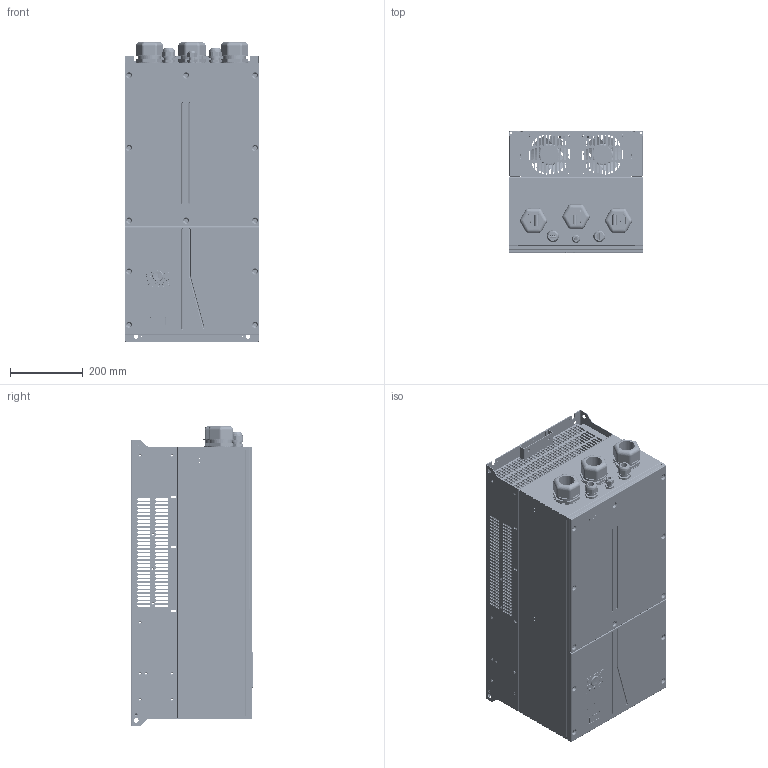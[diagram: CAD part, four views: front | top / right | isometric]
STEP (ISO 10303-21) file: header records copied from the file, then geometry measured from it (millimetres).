
FILE_DESCRIPTION((''),'2;1');
FILE_NAME('GD350-110G-45-NS_ASM_2_ASM_1_ASM','2025-07-31T15:10:04',('Administrator'),(''),'CREO PARAMETRIC BY PTC INC, 2019080','CREO PARAMETRIC BY PTC INC, 2019080','');
FILE_SCHEMA(('CONFIG_CONTROL_DESIGN'));
Products named in the file (70): 80310596_1_1; YMD-55-0D8-SL_1_1; 80310596_ASM_1_ASM_1_ASM; 80482931_1_1; S-M4-ZC_1_1; 80482931_ASM_1_ASM_1_ASM; 80482935_1_1; 80482935_ASM_1_ASM_1_ASM; 61210512_ASM_1_ASM_1_ASM; 80482936_1_1; NZ-M8-SL_1_1; 80482936_ASM_1_ASM_1_ASM; 80482936SY_1_1; 80482936SY_ASM_1_ASM_1_ASM; 41060148_ASM_1_ASM_1_ASM; 80340240_1_1; 80340240_ASM_1_ASM_1_ASM; 61061547_ASM_1_ASM_1_ASM; 80410471_1_1; FH-M3-10-ZC_1_1; BS-M4-10_1_1; 80410471_ASM_1_ASM_1_ASM; 61761386_ASM_1_ASM_1_ASM; 61761386SY_ASM_1_ASM_1_ASM; 80410718_1_1; 80410718_ASM_1_ASM_1_ASM; 80386379_1_1; 61761915_ASM_1_ASM_1_ASM; 41060189_ASM_1_ASM_1_ASM; 80483081_1_1; 80483081_ASM_1_ASM_1_ASM; 80389157_1_1; 80389157_ASM_1_ASM_1_ASM; 80389157SY_ASM_1_ASM_1_ASM; 80386373_1_1; 80386373_ASM_1_ASM_1_ASM; 80386373SY_ASM_1_ASM_1_ASM; 40801592_ASM_1_ASM_1_ASM; 2-21-12-123-4C-230HBT_1_1; 36004-00757_1_1_1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
Assembly tree (109 placements, depth 6):
  GD350-110G-45-NS_ASM_2_ASM_1_ASM
    41060189_ASM_1_ASM_1_ASM
      41060148_ASM_1_ASM_1_ASM
        61210512_ASM_1_ASM_1_ASM
          80310596_ASM_1_ASM_1_ASM
            80310596_1_1
            YMD-55-0D8-SL_1_1  x2
          80482931_ASM_1_ASM_1_ASM
            80482931_1_1
            S-M4-ZC_1_1  x8
          80482935_ASM_1_ASM_1_ASM
            80482935_1_1
            YMD-55-0D8-SL_1_1  x2
        80482936SY_ASM_1_ASM_1_ASM
          80482936_ASM_1_ASM_1_ASM
            80482936_1_1
            NZ-M8-SL_1_1  x2
          80482936SY_1_1
      61061547_ASM_1_ASM_1_ASM
        80340240_ASM_1_ASM_1_ASM
          80340240_1_1
      61761386SY_ASM_1_ASM_1_ASM
        61761386_ASM_1_ASM_1_ASM
          80410471_ASM_1_ASM_1_ASM
            80410471_1_1
            FH-M3-10-ZC_1_1  x6
            YMD-55-0D8-SL_1_1  x4
            BS-M4-10_1_1  x2
      61761915_ASM_1_ASM_1_ASM
        80410718_ASM_1_ASM_1_ASM
          80410718_1_1
          YMD-55-0D8-SL_1_1  x2
        80386379_1_1  x2
    40801592_ASM_1_ASM_1_ASM
      80483081_ASM_1_ASM_1_ASM
        80483081_1_1
        YMD-55-0D8-SL_1_1  x2
      80389157SY_ASM_1_ASM_1_ASM
        80389157_ASM_1_ASM_1_ASM
          80389157_1_1
      80386373SY_ASM_1_ASM_1_ASM
        80386373_ASM_1_ASM_1_ASM
          80386373_1_1
    GD350-110G-45-NS-ES_ASM_1_ASM_1_ASM
      2-21-12-123-4C-230HBT_1_1  x2
      TERMINAL_HP_RT200-SS222221_ASM__ASM
        36004-00757_1_ASM_1_ASM  x9
          36004-00757_1_1_1
          36004-00757_1_2_1
          36004-00757_1_3_1
      PA1629_LT1_A1-0412_ASM_1_ASM_1_ASM
        PA1629_LT1_A1-0412_1_1
        E-JK4-1111-12_1_1  x3
      PCG-M25-18-B-1_1_1  x2
      PCG-M16-B-BK_1_1
      39003-00208_1_1  x3
      0_GD350_PCB_IP54_ASM_1_ASM_1_ASM
        PA1704_CT1_A2_ASM_1_ASM_1_ASM
          PA1704_CT1_A2_1_1
          E-DIN0309-5_08MM-TA_1_1
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Bounding box: 370 x 337.35 x 825.3 mm (x, y, z)
Volume: 4683646.7 mm3; surface area: 4714998.6 mm2
Topology: 95 solids, 106 shells, 18261 faces, 50266 edges, 32767 vertices
Faces by surface type: plane 10731, cylinder 5900, cone 778, torus 382, bspline 336, extrusion 62, revolution 48, sphere 24
Entity records: 393829 total; most frequent: CARTESIAN_POINT 86093, DIRECTION 65048, ORIENTED_EDGE 62420, EDGE_CURVE 31222, AXIS2_PLACEMENT_3D 23701, VERTEX_POINT 20292, VECTOR 17614, LINE 17566
